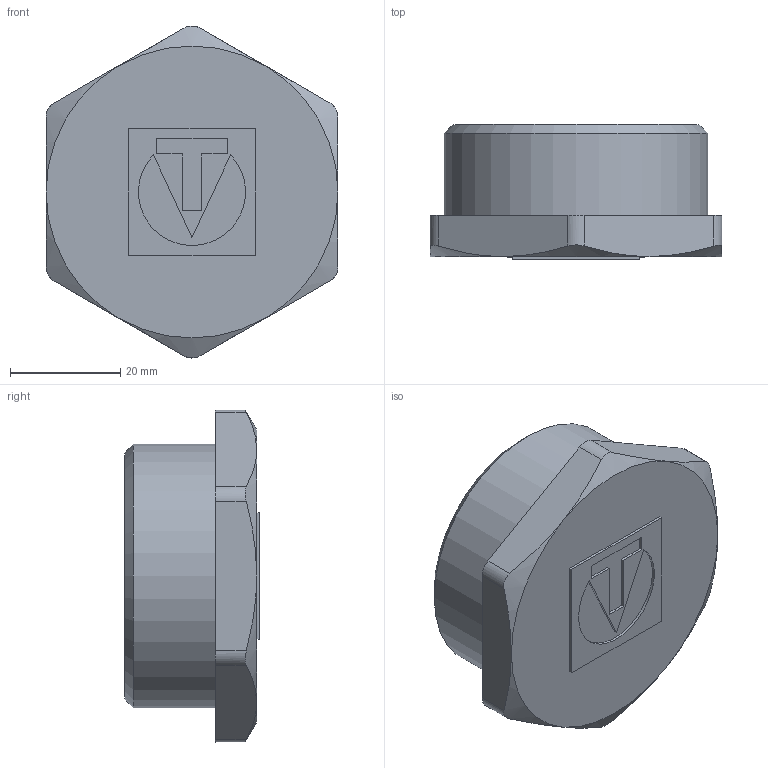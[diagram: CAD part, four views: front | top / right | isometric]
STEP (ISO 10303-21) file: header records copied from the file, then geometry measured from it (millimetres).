
FILE_DESCRIPTION(('STEP AP203'), '1');
FILE_NAME('ÂÐ.753125.007 - VTr.583.N.0008 Ïðîá. ðåçüá', '2024-07-05T13:27:04', ('Boss'), (''), 'C3D Converter', 'C3D Toolkit', '');
FILE_SCHEMA(('CONFIG_CONTROL_DESIGN'));
Length unit declared in the file: millimetre
Products named in the file (1): ВР.753125.007
Bounding box: 53 x 24.5 x 60.27 mm (x, y, z)
Volume: 21186.7 mm3; surface area: 11125 mm2
Topology: 1 solids, 1 shells, 44 faces, 103 edges, 66 vertices
Faces by surface type: plane 27, cylinder 9, cone 8
Full cylindrical faces by diameter (mm): 40 x1, 47.803 x1
Entity records: 1771 total; most frequent: CARTESIAN_POINT 763, ORIENTED_EDGE 198, DIRECTION 191, EDGE_CURVE 99, VERTEX_POINT 66, AXIS2_PLACEMENT_3D 65, LINE 61, VECTOR 61
